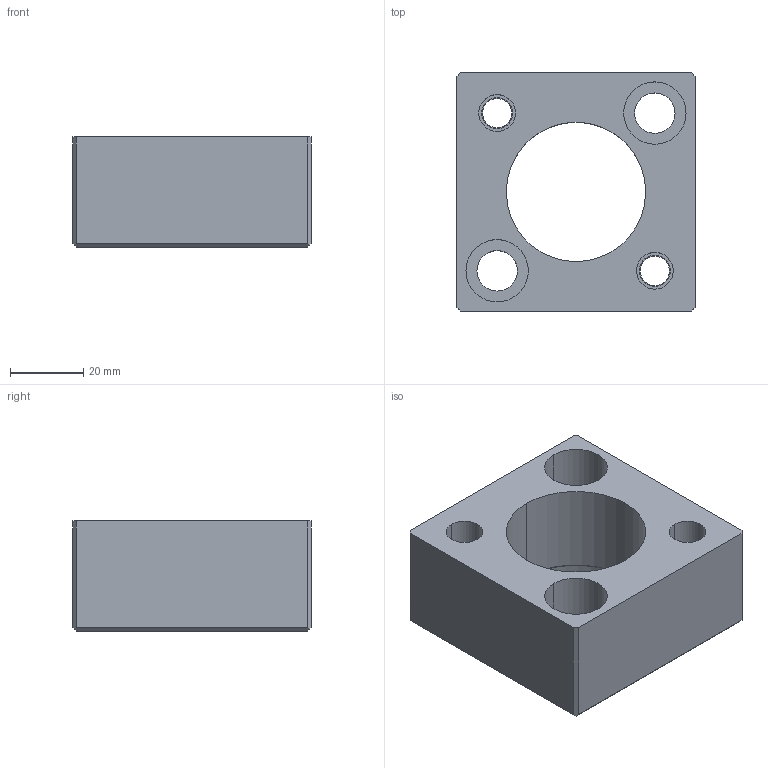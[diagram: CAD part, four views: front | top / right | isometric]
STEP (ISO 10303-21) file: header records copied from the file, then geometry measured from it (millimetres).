
FILE_DESCRIPTION(/* description */ (''),/* implementation_level */ '2;1');
FILE_NAME(/* name */ '3d_sr-fn38_05485_r00.stp',/* time_stamp */ '2011-01-10T14:09:58+09:00',/* author */ ('MISUMI'),/* organization */ (''),/* preprocessor_version */ 'ST-DEVELOPER v11',/* originating_system */ 'UGS - NX 5.0',/* authorisation */ '');
FILE_SCHEMA (('CONFIG_CONTROL_DESIGN'));
Length unit declared in the file: millimetre
Products named in the file (1): 3d_sr-fn38_05485_r00
Bounding box: 65 x 65 x 30 mm (x, y, z)
Volume: 78733.1 mm3; surface area: 21014.3 mm2
Topology: 1 solids, 1 shells, 47 faces, 116 edges, 77 vertices
Faces by surface type: cylinder 23, plane 22, cone 2
Entity records: 1518 total; most frequent: DIRECTION 260, CARTESIAN_POINT 244, ORIENTED_EDGE 232, EDGE_CURVE 116, AXIS2_PLACEMENT_3D 97, VERTEX_POINT 77, LINE 66, VECTOR 66
